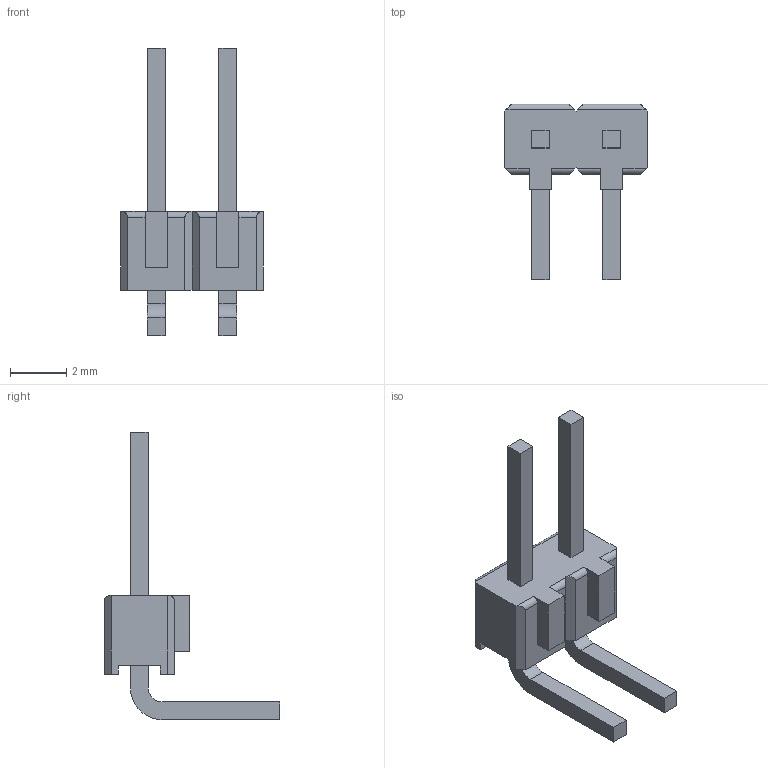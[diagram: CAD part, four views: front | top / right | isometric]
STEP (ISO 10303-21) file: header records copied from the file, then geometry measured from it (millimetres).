
FILE_DESCRIPTION(('STEP AP214'),'1');
FILE_NAME('826652-2.stp','2020-08-31T19:21:29',('TraceParts'),('TraceParts S.A.'),'Spatial InterOp 3D',' ',' ');
FILE_SCHEMA(('AUTOMOTIVE_DESIGN { 1 0 10303 214 1 1 1 1 }'));
Length unit declared in the file: millimetre
Products named in the file (1): 826652-2
Bounding box: 5.08 x 6.25 x 10.21 mm (x, y, z)
Volume: 43.8 mm3; surface area: 135.3 mm2
Topology: 1 solids, 1 shells, 62 faces, 168 edges, 112 vertices
Faces by surface type: plane 52, cylinder 10
Entity records: 1979 total; most frequent: CARTESIAN_POINT 399, ORIENTED_EDGE 336, DIRECTION 298, EDGE_CURVE 168, LINE 148, VECTOR 148, VERTEX_POINT 112, AXIS2_PLACEMENT_3D 75
